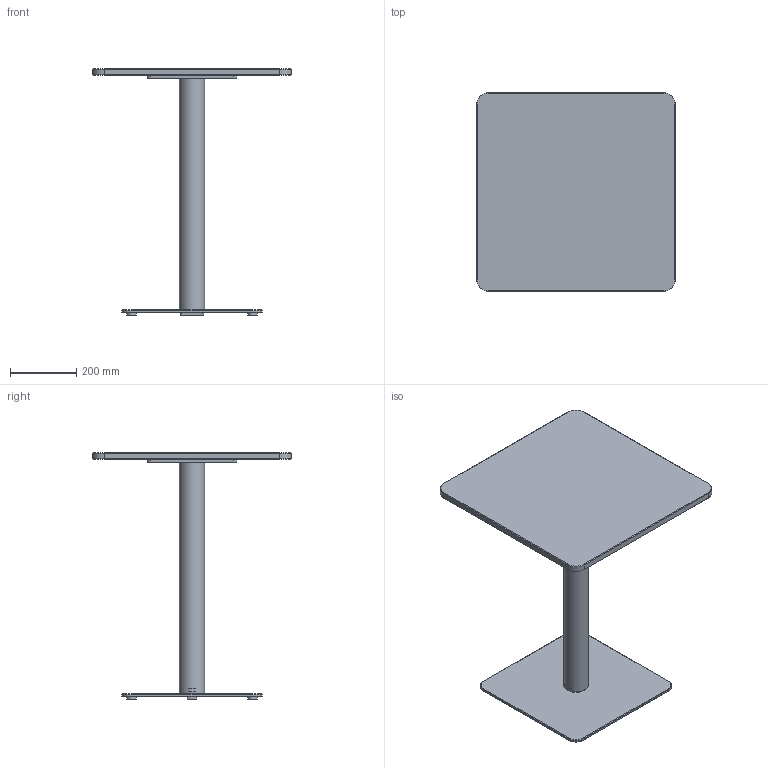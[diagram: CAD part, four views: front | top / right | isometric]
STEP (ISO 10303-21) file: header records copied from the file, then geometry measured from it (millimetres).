
FILE_DESCRIPTION( ('This file contains a STEP AP42 implementation' ,'as created by ZW3D STEP Interface translator.') ,'2;1' );
FILE_NAME( 'Henri - B_Carré - F3 - M1 - 600 x 600 x 750.stp' ,'24 912.17 358', (''), ('ZWCAD Software Co.'), 'Version 1.0', 'ZW3D to STEP translator', '' );
FILE_SCHEMA(('AUTOMOTIVE_DESIGN { 1 0 10303 214 1 1 1 1 }'));
Length unit declared in the file: millimetre
Products named in the file (14): 0; PIED BISTROT PARAMETRIQUE_; COLONNE ACIER Ø76 V.02_; TUB-D076-02_; PLA-R76B-01_; CROIX ACIER 370 V.02_; CRX-X370-02_; SOCLE ACIER L 425x425 V.02_; SCL-R425-02_; PLA-R30A-01_; PLA-R30A-01; WUERTH 0276063020 Euro-screw 6.3x2 Verzinkt_; PLATEAU BISTROT PARAMETRIQUE_; insert_m6_13_
Assembly tree (22 placements, depth 3):
  0
  PIED BISTROT PARAMETRIQUE_
    COLONNE ACIER Ø76 V.02_
      TUB-D076-02_
      PLA-R76B-01_  x2
    CROIX ACIER 370 V.02_
      CRX-X370-02_
    SOCLE ACIER L 425x425 V.02_
      SCL-R425-02_
      PLA-R30A-01_
      PLA-R30A-01  x3
    WUERTH 0276063020 Euro-screw 6.3x2 Verzinkt_
    PLATEAU BISTROT PARAMETRIQUE_
      insert_m6_13_  x8
Bounding box: 600 x 600 x 744 mm (x, y, z)
Volume: 9551512.6 mm3; surface area: 1653861.4 mm2
Topology: 19 solids, 19 shells, 537 faces, 1310 edges, 822 vertices
Faces by surface type: plane 262, bspline 121, cylinder 98, cone 55, torus 1
Full cylindrical faces by diameter (mm): 4.88 x1, 6 x8, 6.3 x1, 8 x45, 12 x2, 14 x2, 30 x4, 72 x1, 76 x1
Entity records: 12310 total; most frequent: CARTESIAN_POINT 3396, ORIENTED_EDGE 1624, DIRECTION 1519, EDGE_CURVE 812, VERTEX_POINT 518, VECTOR 513, LINE 513, AXIS2_PLACEMENT_3D 503
